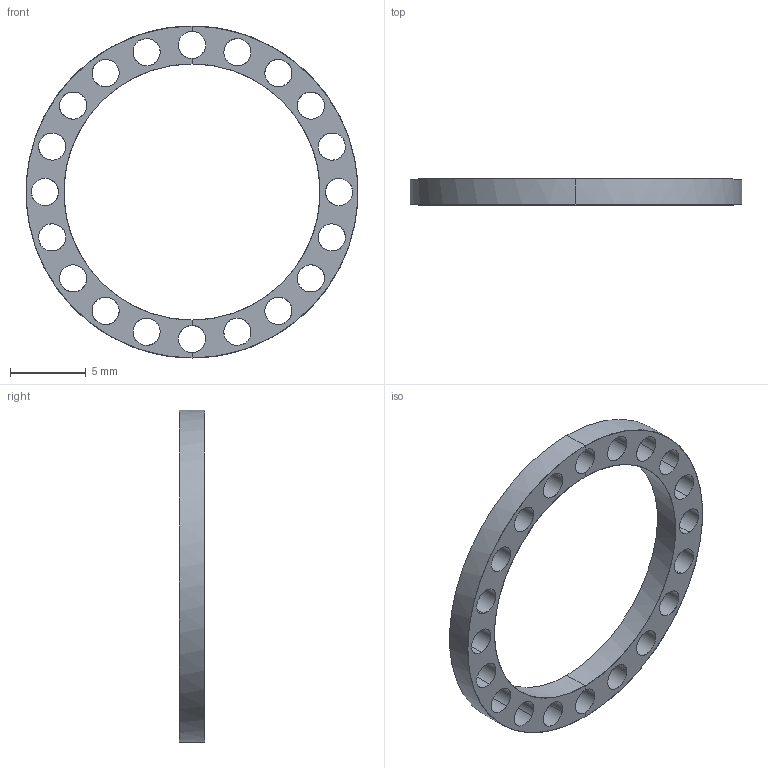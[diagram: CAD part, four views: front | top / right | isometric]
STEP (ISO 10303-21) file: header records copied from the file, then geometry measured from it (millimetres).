
FILE_DESCRIPTION(/* description */ ('Generated from Alias Stage'),/* implementation_level */ '2;1');
FILE_NAME(/* name */ 'couronne',/* time_stamp */ '2016-02-22T22:55:59+01:00',/* author */ (''),/* organization */ ('Autodesk Alias'),/* preprocessor_version */ 'ST-DEVELOPER v11',/* originating_system */ 'Autodesk OpenModel 2015',/* authorisation */ '');
FILE_SCHEMA (('AUTOMOTIVE_DESIGN { 1 2 10303 214 1 1 1 1 }'));
Length unit declared in the file: millimetre
Products named in the file (1): couronne
Bounding box: 21.83 x 1.7 x 21.86 mm (x, y, z)
Surface area: 701.3 mm2 (no closed solid volume)
Topology: 0 solids, 1 shells, 50 faces, 214 edges, 132 vertices
Faces by surface type: bspline 50
Entity records: 6372 total; most frequent: CARTESIAN_POINT 5359, ORIENTED_EDGE 382, EDGE_CURVE 214, VERTEX_POINT 133, EDGE_LOOP 104, FACE_BOUND 54, FACE_OUTER_BOUND 50, ADVANCED_FACE 50
